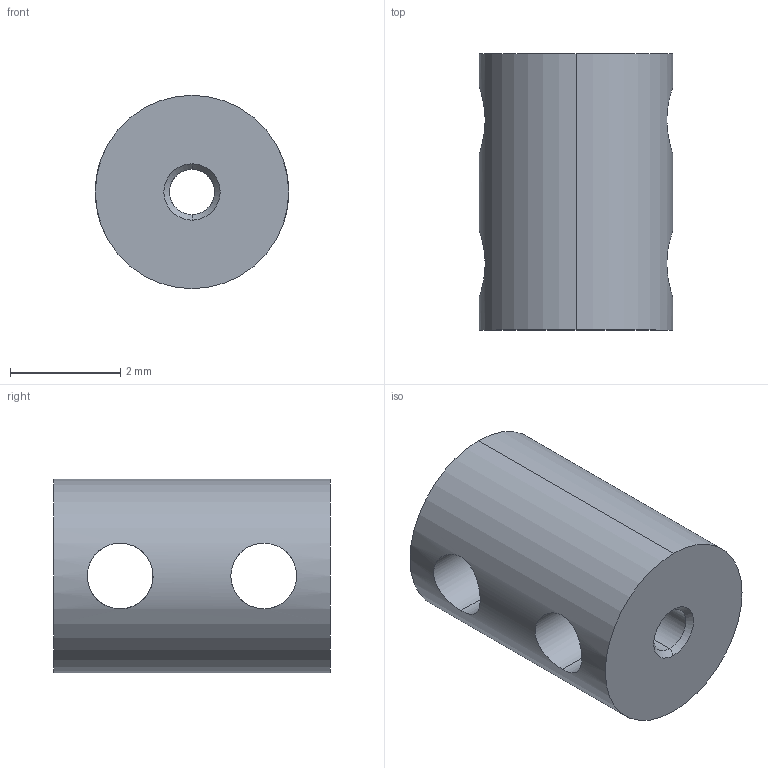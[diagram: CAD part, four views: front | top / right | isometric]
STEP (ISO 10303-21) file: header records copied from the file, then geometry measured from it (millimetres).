
FILE_DESCRIPTION (( 'STEP AP214' ), '1' );
FILE_NAME ('TRL-0029-A.STEP', '2021-06-29T17:46:20', ( '' ), ( '' ), 'SwSTEP 2.0', 'SolidWorks 2016', '' );
FILE_SCHEMA (( 'AUTOMOTIVE_DESIGN' ));
Length unit declared in the file: millimetre
Products named in the file (1): TRL-0029-A
Bounding box: 3.5 x 5 x 3.5 mm (x, y, z)
Volume: 38.5 mm3; surface area: 99.6 mm2
Topology: 1 solids, 1 shells, 21 faces, 50 edges, 32 vertices
Faces by surface type: cylinder 14, cone 4, plane 3
Entity records: 894 total; most frequent: CARTESIAN_POINT 324, ORIENTED_EDGE 100, DIRECTION 94, EDGE_CURVE 50, AXIS2_PLACEMENT_3D 38, EDGE_LOOP 32, VERTEX_POINT 32, ADVANCED_FACE 21
